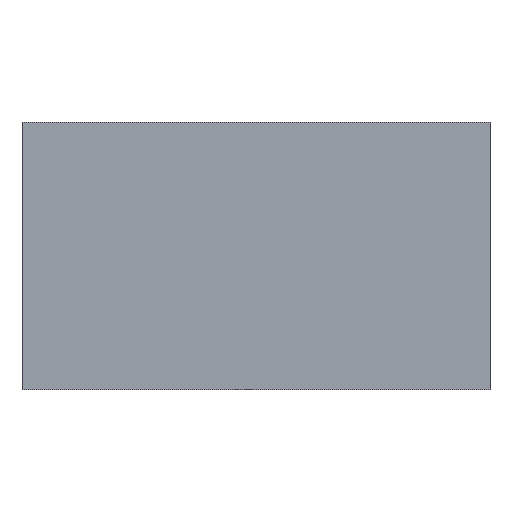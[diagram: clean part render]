
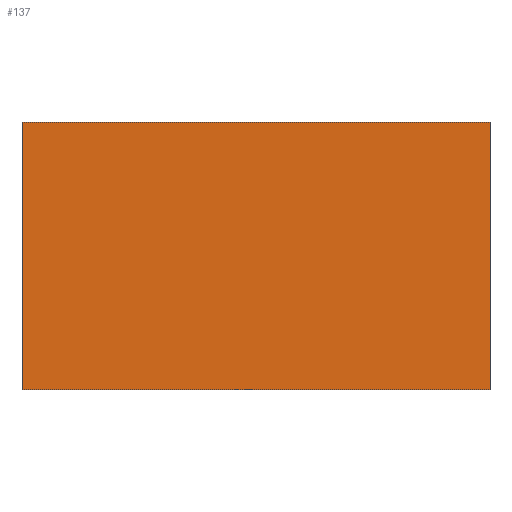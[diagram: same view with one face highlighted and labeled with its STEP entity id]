
A CAD part, front view. The second image highlights one B-rep face of the part: STEP entity #137.
In plain terms, the highlighted planar face has unit normal (0, -1, 0).
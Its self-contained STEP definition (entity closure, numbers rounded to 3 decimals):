
#21 = EDGE_CURVE('',#22,#24,#26,.T.);
#22 = VERTEX_POINT('',#23);
#23 = CARTESIAN_POINT('',(7.,-16.,6.655));
#24 = VERTEX_POINT('',#25);
#25 = CARTESIAN_POINT('',(7.,-16.,14.655));
#26 = SURFACE_CURVE('',#27,(#31,#43),.PCURVE_S1.);
#27 = LINE('',#28,#29);
#28 = CARTESIAN_POINT('',(7.,-16.,6.655));
#29 = VECTOR('',#30,1.);
#30 = DIRECTION('',(0.,0.,1.));
#31 = PCURVE('',#32,#37);
#32 = PLANE('',#33);
#33 = AXIS2_PLACEMENT_3D('',#34,#35,#36);
#34 = CARTESIAN_POINT('',(7.,-16.,6.655));
#35 = DIRECTION('',(-1.,-0.,0.));
#36 = DIRECTION('',(0.,0.,-1.));
#37 = DEFINITIONAL_REPRESENTATION('',(#38),#42);
#38 = LINE('',#39,#40);
#39 = CARTESIAN_POINT('',(-0.,-0.));
#40 = VECTOR('',#41,1.);
#41 = DIRECTION('',(-1.,-0.));
#42 = ( GEOMETRIC_REPRESENTATION_CONTEXT(2) 
PARAMETRIC_REPRESENTATION_CONTEXT() REPRESENTATION_CONTEXT('2D SPACE',''
  ) );
#43 = PCURVE('',#44,#49);
#44 = PLANE('',#45);
#45 = AXIS2_PLACEMENT_3D('',#46,#47,#48);
#46 = CARTESIAN_POINT('',(7.,-16.,6.655));
#47 = DIRECTION('',(-0.,1.,0.));
#48 = DIRECTION('',(0.,0.,-1.));
#49 = DEFINITIONAL_REPRESENTATION('',(#50),#54);
#50 = LINE('',#51,#52);
#51 = CARTESIAN_POINT('',(-0.,-0.));
#52 = VECTOR('',#53,1.);
#53 = DIRECTION('',(-1.,0.));
#54 = ( GEOMETRIC_REPRESENTATION_CONTEXT(2) 
PARAMETRIC_REPRESENTATION_CONTEXT() REPRESENTATION_CONTEXT('2D SPACE',''
  ) );
#72 = PLANE('',#73);
#73 = AXIS2_PLACEMENT_3D('',#74,#75,#76);
#74 = CARTESIAN_POINT('',(7.,-16.,6.655));
#75 = DIRECTION('',(0.,0.,1.));
#76 = DIRECTION('',(1.,0.,0.));
#126 = PLANE('',#127);
#127 = AXIS2_PLACEMENT_3D('',#128,#129,#130);
#128 = CARTESIAN_POINT('',(7.,-16.,14.655));
#129 = DIRECTION('',(0.,0.,1.));
#130 = DIRECTION('',(1.,0.,0.));
#137 = ADVANCED_FACE('',(#138),#44,.F.);
#138 = FACE_BOUND('',#139,.T.);
#139 = EDGE_LOOP('',(#140,#163,#164,#187));
#140 = ORIENTED_EDGE('',*,*,#141,.F.);
#141 = EDGE_CURVE('',#22,#142,#144,.T.);
#142 = VERTEX_POINT('',#143);
#143 = CARTESIAN_POINT('',(-7.,-16.,6.655));
#144 = SURFACE_CURVE('',#145,(#149,#156),.PCURVE_S1.);
#145 = LINE('',#146,#147);
#146 = CARTESIAN_POINT('',(7.,-16.,6.655));
#147 = VECTOR('',#148,1.);
#148 = DIRECTION('',(-1.,-0.,0.));
#149 = PCURVE('',#44,#150);
#150 = DEFINITIONAL_REPRESENTATION('',(#151),#155);
#151 = LINE('',#152,#153);
#152 = CARTESIAN_POINT('',(-0.,-0.));
#153 = VECTOR('',#154,1.);
#154 = DIRECTION('',(-0.,1.));
#155 = ( GEOMETRIC_REPRESENTATION_CONTEXT(2) 
PARAMETRIC_REPRESENTATION_CONTEXT() REPRESENTATION_CONTEXT('2D SPACE',''
  ) );
#156 = PCURVE('',#72,#157);
#157 = DEFINITIONAL_REPRESENTATION('',(#158),#162);
#158 = LINE('',#159,#160);
#159 = CARTESIAN_POINT('',(0.,-0.));
#160 = VECTOR('',#161,1.);
#161 = DIRECTION('',(-1.,0.));
#162 = ( GEOMETRIC_REPRESENTATION_CONTEXT(2) 
PARAMETRIC_REPRESENTATION_CONTEXT() REPRESENTATION_CONTEXT('2D SPACE',''
  ) );
#163 = ORIENTED_EDGE('',*,*,#21,.T.);
#164 = ORIENTED_EDGE('',*,*,#165,.T.);
#165 = EDGE_CURVE('',#24,#166,#168,.T.);
#166 = VERTEX_POINT('',#167);
#167 = CARTESIAN_POINT('',(-7.,-16.,14.655));
#168 = SURFACE_CURVE('',#169,(#173,#180),.PCURVE_S1.);
#169 = LINE('',#170,#171);
#170 = CARTESIAN_POINT('',(7.,-16.,14.655));
#171 = VECTOR('',#172,1.);
#172 = DIRECTION('',(-1.,-0.,0.));
#173 = PCURVE('',#44,#174);
#174 = DEFINITIONAL_REPRESENTATION('',(#175),#179);
#175 = LINE('',#176,#177);
#176 = CARTESIAN_POINT('',(-8.,-0.));
#177 = VECTOR('',#178,1.);
#178 = DIRECTION('',(-0.,1.));
#179 = ( GEOMETRIC_REPRESENTATION_CONTEXT(2) 
PARAMETRIC_REPRESENTATION_CONTEXT() REPRESENTATION_CONTEXT('2D SPACE',''
  ) );
#180 = PCURVE('',#126,#181);
#181 = DEFINITIONAL_REPRESENTATION('',(#182),#186);
#182 = LINE('',#183,#184);
#183 = CARTESIAN_POINT('',(0.,-0.));
#184 = VECTOR('',#185,1.);
#185 = DIRECTION('',(-1.,0.));
#186 = ( GEOMETRIC_REPRESENTATION_CONTEXT(2) 
PARAMETRIC_REPRESENTATION_CONTEXT() REPRESENTATION_CONTEXT('2D SPACE',''
  ) );
#187 = ORIENTED_EDGE('',*,*,#188,.F.);
#188 = EDGE_CURVE('',#142,#166,#189,.T.);
#189 = SURFACE_CURVE('',#190,(#194,#201),.PCURVE_S1.);
#190 = LINE('',#191,#192);
#191 = CARTESIAN_POINT('',(-7.,-16.,6.655));
#192 = VECTOR('',#193,1.);
#193 = DIRECTION('',(0.,0.,1.));
#194 = PCURVE('',#44,#195);
#195 = DEFINITIONAL_REPRESENTATION('',(#196),#200);
#196 = LINE('',#197,#198);
#197 = CARTESIAN_POINT('',(-0.,14.));
#198 = VECTOR('',#199,1.);
#199 = DIRECTION('',(-1.,0.));
#200 = ( GEOMETRIC_REPRESENTATION_CONTEXT(2) 
PARAMETRIC_REPRESENTATION_CONTEXT() REPRESENTATION_CONTEXT('2D SPACE',''
  ) );
#201 = PCURVE('',#202,#207);
#202 = PLANE('',#203);
#203 = AXIS2_PLACEMENT_3D('',#204,#205,#206);
#204 = CARTESIAN_POINT('',(-7.,-16.,6.655));
#205 = DIRECTION('',(-1.,-0.,0.));
#206 = DIRECTION('',(0.,0.,-1.));
#207 = DEFINITIONAL_REPRESENTATION('',(#208),#212);
#208 = LINE('',#209,#210);
#209 = CARTESIAN_POINT('',(-0.,-0.));
#210 = VECTOR('',#211,1.);
#211 = DIRECTION('',(-1.,-0.));
#212 = ( GEOMETRIC_REPRESENTATION_CONTEXT(2) 
PARAMETRIC_REPRESENTATION_CONTEXT() REPRESENTATION_CONTEXT('2D SPACE',''
  ) );
